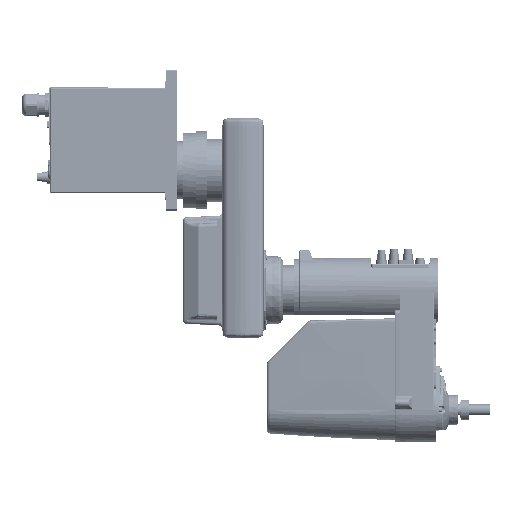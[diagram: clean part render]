
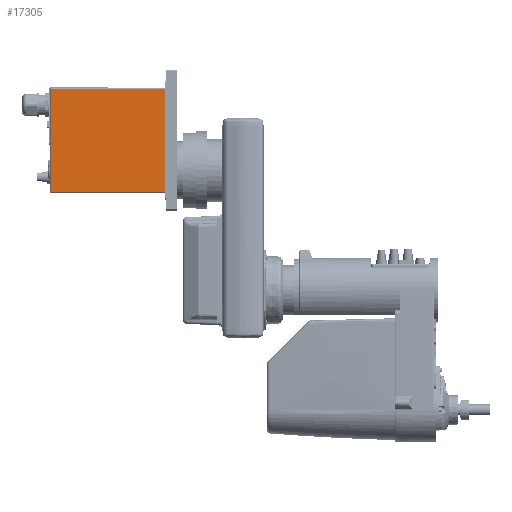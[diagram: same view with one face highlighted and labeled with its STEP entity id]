
A CAD part, left-side view. The second image highlights one B-rep face of the part: STEP entity #17305.
In plain terms, the highlighted planar face has unit normal (-1, 0, 0) as drawn and (0, 0, 1) by its records, which use the part's own axes.
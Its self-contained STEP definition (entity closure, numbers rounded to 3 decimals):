
#1300=DIRECTION('',(1.,0.,0.));
#1301=VECTOR('',#1300,150.);
#1302=CARTESIAN_POINT('',(-119.,-2.,60.));
#1303=LINE('',#1302,#1301);
#1304=DIRECTION('',(0.,1.,0.));
#1305=VECTOR('',#1304,166.);
#1306=CARTESIAN_POINT('',(31.,-168.,60.));
#1307=LINE('',#1306,#1305);
#1308=DIRECTION('',(-1.,0.,0.));
#1309=VECTOR('',#1308,150.);
#1310=CARTESIAN_POINT('',(31.,-168.,60.));
#1311=LINE('',#1310,#1309);
#1312=DIRECTION('',(0.,1.,0.));
#1313=VECTOR('',#1312,166.);
#1314=CARTESIAN_POINT('',(-119.,-168.,60.));
#1315=LINE('',#1314,#1313);
#13463=CARTESIAN_POINT('',(31.,-168.,60.));
#13464=CARTESIAN_POINT('',(-119.,-168.,60.));
#13465=VERTEX_POINT('',#13463);
#13466=VERTEX_POINT('',#13464);
#13485=CARTESIAN_POINT('',(-119.,-2.,60.));
#13486=VERTEX_POINT('',#13485);
#13489=CARTESIAN_POINT('',(31.,-2.,60.));
#13490=VERTEX_POINT('',#13489);
#17292=CARTESIAN_POINT('',(33.,0.,60.));
#17293=DIRECTION('',(0.,0.,1.));
#17294=DIRECTION('',(-1.,0.,0.));
#17295=AXIS2_PLACEMENT_3D('',#17292,#17293,#17294);
#17296=PLANE('',#17295);
#17298=ORIENTED_EDGE('',*,*,#17297,.T.);
#17299=ORIENTED_EDGE('',*,*,#17240,.F.);
#17300=ORIENTED_EDGE('',*,*,#17276,.T.);
#17302=ORIENTED_EDGE('',*,*,#17301,.T.);
#17303=EDGE_LOOP('',(#17298,#17299,#17300,#17302));
#17304=FACE_OUTER_BOUND('',#17303,.F.);
#17305=ADVANCED_FACE('',(#17304),#17296,.T.);
#17240=EDGE_CURVE('',#13465,#13490,#1307,.T.);
#17276=EDGE_CURVE('',#13465,#13466,#1311,.T.);
#17297=EDGE_CURVE('',#13486,#13490,#1303,.T.);
#17301=EDGE_CURVE('',#13466,#13486,#1315,.T.);
